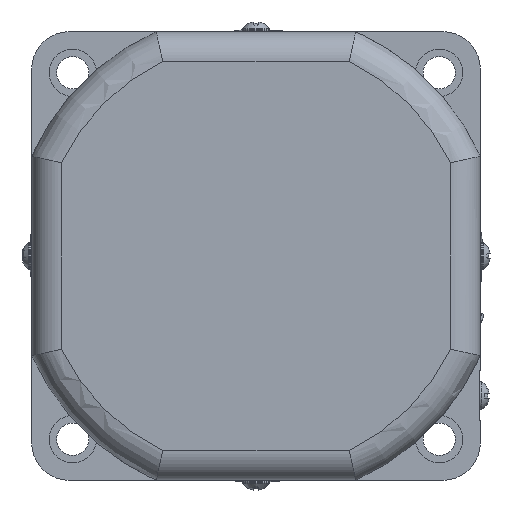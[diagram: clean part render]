
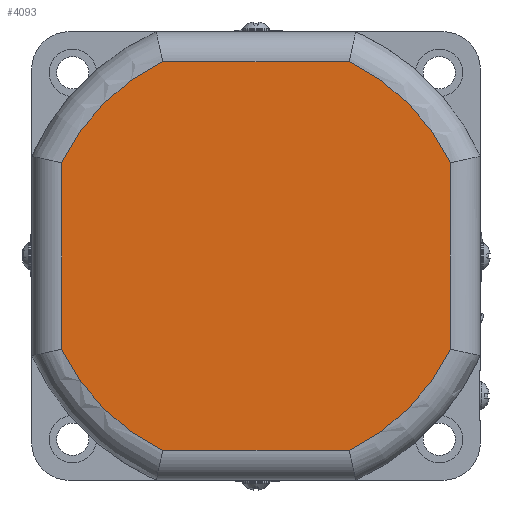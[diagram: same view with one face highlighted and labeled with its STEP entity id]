
A CAD part, left-side view. The second image highlights one B-rep face of the part: STEP entity #4093.
In plain terms, the highlighted planar face has unit normal (-1, 0, 0).
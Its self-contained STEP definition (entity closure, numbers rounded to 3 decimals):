
#301=CIRCLE('',#4414,43.25);
#302=CIRCLE('',#4418,43.25);
#305=CIRCLE('',#4422,43.25);
#306=CIRCLE('',#4426,43.25);
#505=FACE_OUTER_BOUND('',#761,.T.);
#761=EDGE_LOOP('',(#3061,#3062,#3063,#3064,#3065,#3066,#3067,#3068));
#1059=LINE('',#6672,#1400);
#1062=LINE('',#6692,#1403);
#1063=LINE('',#6745,#1404);
#1064=LINE('',#6762,#1405);
#1400=VECTOR('',#5090,37.393);
#1403=VECTOR('',#5095,37.393);
#1404=VECTOR('',#5110,37.393);
#1405=VECTOR('',#5113,37.393);
#1775=VERTEX_POINT('',#6622);
#1777=VERTEX_POINT('',#6639);
#1779=VERTEX_POINT('',#6657);
#1781=VERTEX_POINT('',#6676);
#1782=VERTEX_POINT('',#6694);
#1783=VERTEX_POINT('',#6712);
#1784=VERTEX_POINT('',#6730);
#1785=VERTEX_POINT('',#6747);
#2243=EDGE_CURVE('',#1777,#1775,#301,.T.);
#2245=EDGE_CURVE('',#1779,#1777,#1059,.T.);
#2249=EDGE_CURVE('',#1775,#1781,#1062,.T.);
#2251=EDGE_CURVE('',#1782,#1779,#302,.T.);
#2255=EDGE_CURVE('',#1781,#1783,#305,.T.);
#2257=EDGE_CURVE('',#1784,#1782,#1063,.T.);
#2259=EDGE_CURVE('',#1783,#1785,#1064,.T.);
#2260=EDGE_CURVE('',#1785,#1784,#306,.T.);
#3061=ORIENTED_EDGE('',*,*,#2259,.F.);
#3062=ORIENTED_EDGE('',*,*,#2255,.F.);
#3063=ORIENTED_EDGE('',*,*,#2249,.F.);
#3064=ORIENTED_EDGE('',*,*,#2243,.F.);
#3065=ORIENTED_EDGE('',*,*,#2245,.F.);
#3066=ORIENTED_EDGE('',*,*,#2251,.F.);
#3067=ORIENTED_EDGE('',*,*,#2257,.F.);
#3068=ORIENTED_EDGE('',*,*,#2260,.F.);
#3905=PLANE('',#4428);
#4093=ADVANCED_FACE('',(#505),#3905,.F.);
#4414=AXIS2_PLACEMENT_3D('',#6654,#5086,#5087);
#4418=AXIS2_PLACEMENT_3D('',#6709,#5098,#5099);
#4422=AXIS2_PLACEMENT_3D('',#6728,#5106,#5107);
#4426=AXIS2_PLACEMENT_3D('',#6764,#5116,#5117);
#4428=AXIS2_PLACEMENT_3D('',#6766,#5120,#5121);
#5086=DIRECTION('center_axis',(1.,0.,0.));
#5087=DIRECTION('ref_axis',(0.,0.707,0.707));
#5090=DIRECTION('',(0.,0.,1.));
#5095=DIRECTION('',(0.,-1.,0.));
#5098=DIRECTION('center_axis',(1.,0.,0.));
#5099=DIRECTION('ref_axis',(0.,0.707,-0.707));
#5106=DIRECTION('center_axis',(1.,0.,0.));
#5107=DIRECTION('ref_axis',(0.,-0.707,0.707));
#5110=DIRECTION('',(0.,1.,0.));
#5113=DIRECTION('',(0.,0.,-1.));
#5116=DIRECTION('center_axis',(1.,0.,0.));
#5117=DIRECTION('ref_axis',(0.,-0.707,-0.707));
#5120=DIRECTION('center_axis',(1.,0.,0.));
#5121=DIRECTION('ref_axis',(0.,0.,-1.));
#6622=CARTESIAN_POINT('',(-58.3,18.697,39.));
#6639=CARTESIAN_POINT('',(-58.3,39.,18.697));
#6654=CARTESIAN_POINT('Origin',(-58.3,0.,0.));
#6657=CARTESIAN_POINT('',(-58.3,39.,-18.697));
#6672=CARTESIAN_POINT('',(-58.3,39.,-18.697));
#6676=CARTESIAN_POINT('',(-58.3,-18.697,39.));
#6692=CARTESIAN_POINT('',(-58.3,18.697,39.));
#6694=CARTESIAN_POINT('',(-58.3,18.697,-39.));
#6709=CARTESIAN_POINT('Origin',(-58.3,0.,0.));
#6712=CARTESIAN_POINT('',(-58.3,-39.,18.697));
#6728=CARTESIAN_POINT('Origin',(-58.3,0.,0.));
#6730=CARTESIAN_POINT('',(-58.3,-18.697,-39.));
#6745=CARTESIAN_POINT('',(-58.3,-18.697,-39.));
#6747=CARTESIAN_POINT('',(-58.3,-39.,-18.697));
#6762=CARTESIAN_POINT('',(-58.3,-39.,18.697));
#6764=CARTESIAN_POINT('Origin',(-58.3,0.,0.));
#6766=CARTESIAN_POINT('Origin',(-58.3,0.,0.));
